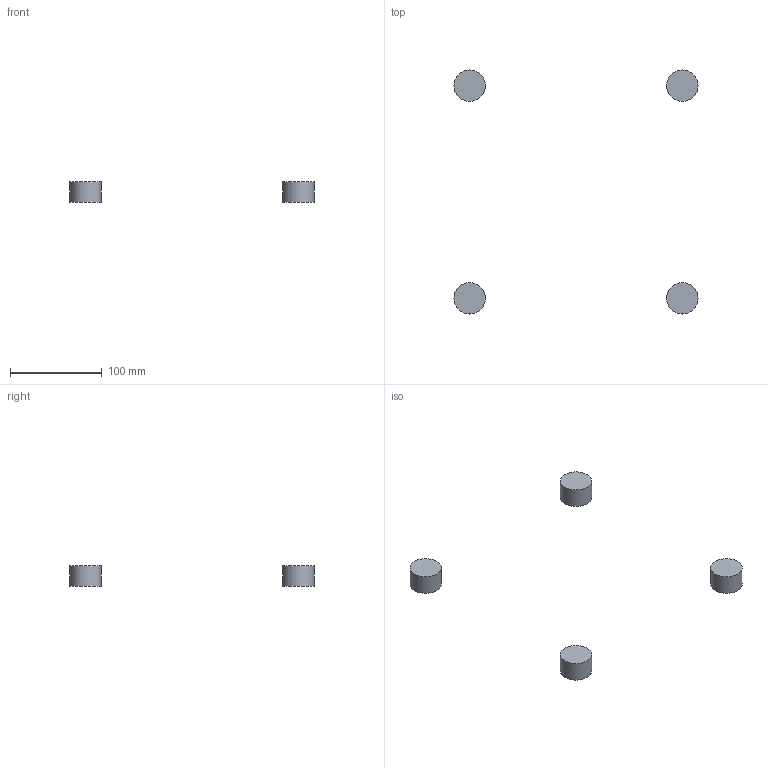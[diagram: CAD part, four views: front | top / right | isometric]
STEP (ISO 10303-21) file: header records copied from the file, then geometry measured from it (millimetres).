
FILE_DESCRIPTION(('FreeCAD Model'),'2;1');
FILE_NAME('Open CASCADE Shape Model','2026-10-22T12:49:28',('FreeCAD'),( 'FreeCAD'),'Open CASCADE STEP processor 8.0','FreeCAD','Unknown');
FILE_SCHEMA(('AUTOMOTIVE_DESIGN { 1 0 10303 214 1 1 1 1 }'));
Length unit declared in the file: millimetre
Products named in the file (1): Open CASCADE STEP translator 8.0 4
Bounding box: 265.22 x 265.22 x 22 mm (x, y, z)
Volume: 79897 mm3; surface area: 16663 mm2
Topology: 4 solids, 4 shells, 12 faces, 12 edges, 8 vertices
Faces by surface type: plane 8, cylinder 4
Full cylindrical faces by diameter (mm): 34 x4
Entity records: 228 total; most frequent: DIRECTION 46, CARTESIAN_POINT 33, ORIENTED_EDGE 24, AXIS2_PLACEMENT_3D 21, ADVANCED_FACE 12, FACE_BOUND 12, EDGE_LOOP 12, EDGE_CURVE 12
